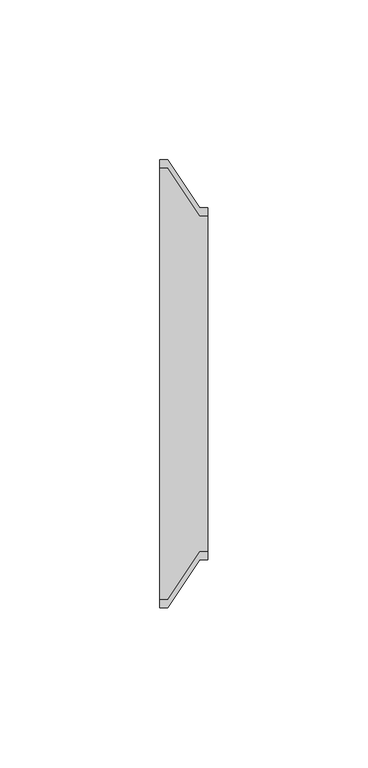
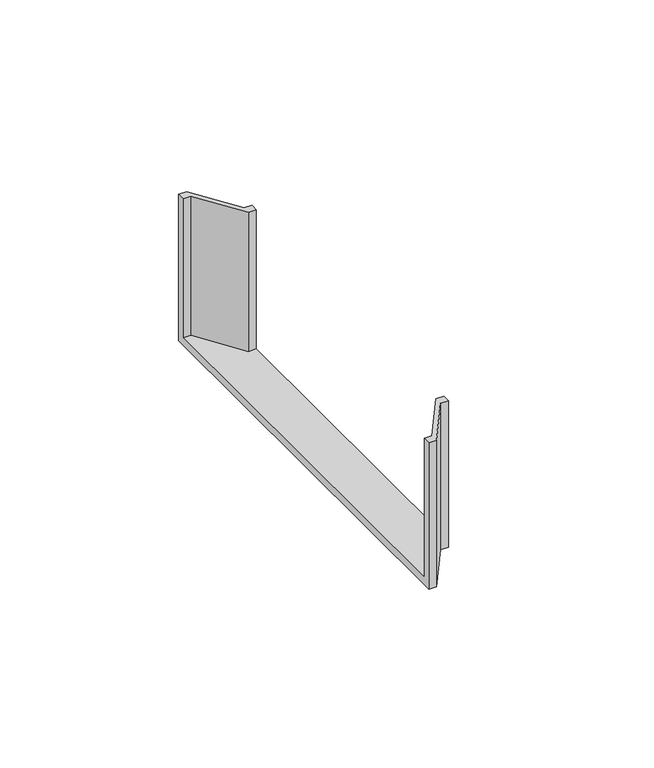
"""IFC4 building model written with IfcOpenShell, lengths in millimetres: cable carrier fitting geometry, КНС_Переходник_ILF_DKC : Переходник_ILF_DKC."""

from ifc_helpers import new_model, si_unit, origin, place, context, project, spatial, faceted_brep, source, transform, mapped, element, save


def cable_carrier_fitting_aa272796(model_context):
    return source(origin(), model_context, "Body", "Brep", [
        faceted_brep([(-7.5, 70.0, -25.0), (-7.5, -70.0, -25.0), (-7.5, -70.0, 25.0), (-7.5, -67.5, 25.0), (-7.5, -67.5, -22.5), (-7.5, 67.5, -22.5), (-7.5, 67.5, 25.0), (-7.5, 70.0, 25.0), (-5.0, 70.0, 25.0), (-5.0, 70.0, -25.0), (-5.0, 67.5, 25.0), (5.0, 52.5, 25.0), (7.5, 52.5, 25.0), (7.5, 55.0, 25.0), (5.0, 55.0, 25.0), (-5.0, 67.5, -22.5), (-5.0, -67.5, -22.5), (5.0, -52.5, -22.5), (7.5, -52.5, -22.5), (7.5, 52.5, -22.5), (5.0, 52.5, -22.5), (-5.0, -67.5, 25.0), (-5.0, -70.0, 25.0), (5.0, -55.0, 25.0), (7.5, -55.0, 25.0), (7.5, -52.5, 25.0), (5.0, -52.5, 25.0), (-5.0, -70.0, -25.0), (5.0, 55.0, -25.0), (7.5, 55.0, -25.0), (7.5, -55.0, -25.0), (5.0, -55.0, -25.0)], [[[0, 1, 2, 3, 4, 5, 6, 7]], [[0, 7, 8, 9]], [[7, 6, 10, 11, 12, 13, 14, 8]], [[6, 5, 15, 10]], [[5, 4, 16, 17, 18, 19, 20, 15]], [[4, 3, 21, 16]], [[3, 2, 22, 23, 24, 25, 26, 21]], [[2, 1, 27, 22]], [[1, 0, 9, 28, 29, 30, 31, 27]], [[15, 20, 11, 10]], [[17, 16, 21, 26]], [[23, 22, 27, 31]], [[28, 9, 8, 14]], [[29, 13, 12, 19, 18, 25, 24, 30]], [[30, 24, 23, 31]], [[25, 18, 17, 26]], [[19, 12, 11, 20]], [[13, 29, 28, 14]]]),
    ])


if __name__ == "__main__":
    model = new_model("IFC4")
    model_context = context("Model", 3, world=origin())
    ifc_project = project(units=[si_unit("LENGTHUNIT", "METRE", prefix="MILLI")], contexts=[model_context])
    site = spatial("IfcSite", under=ifc_project)
    building = spatial("IfcBuilding", under=site)
    placement = place(None, origin())
    cable_carrier_fitting_shape = cable_carrier_fitting_aa272796(model_context)
    element("IfcCableCarrierFitting", 1, ObjectType="КНС_Переходник_ILF_DKC : Переходник_ILF_DKC", at=placement, inside=building, context=model_context, shape_type="MappedRepresentation", body=[
        mapped(cable_carrier_fitting_shape, transform((0.0, 0.0, 0.0), x_axis=(1.0, 0.0, 0.0), y_axis=(0.0, 1.0, 0.0), z_axis=(0.0, 0.0, 1.0))),
    ])
    save(model, "model.ifc")
